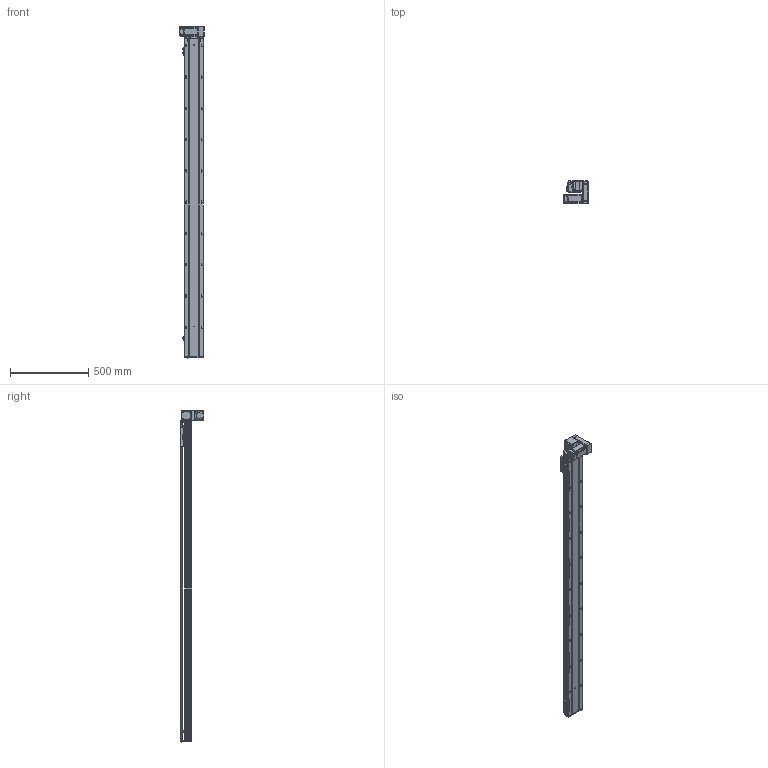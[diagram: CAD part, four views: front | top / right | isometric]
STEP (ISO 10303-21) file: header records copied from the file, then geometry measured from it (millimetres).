
FILE_DESCRIPTION (( 'STEP AP203' ), '1' );
FILE_NAME ('RY120-T-300-DR.SLDASM_1800.step', '2021-03-01T03:37:06', ( '盈信电脑' ), ( '东莞市道滘镇水果街19号' ), 'SwSTEP 2.0', 'SolidWorks 2012', '' );
FILE_SCHEMA (( 'CONFIG_CONTROL_DESIGN' ));
Length unit declared in the file: millimetre
Products named in the file (17): RY120-T-300-DR.SLDASM_1800; RY120-T主同步轮轴承压盖; RY120-T萇儂欶; RY120-T萇儂假蚾啣; RY120-T蹟翐M4; 滅袉蝶18-10; RY120-T翋肮祭謫裔啣; RY120-T翋肮祭盓傅釱; 15; RY120外置感应片(140共用）; RY120-T肮祭湍揤踡輸1; 覜茼ん672; RY120-T肮祭湍揤踡輸2; RY120-T-300-DR倰第奻裔啣_1800; RY120肮祭湍臏賑輸; RY120綴裔啣; RY120-T-300-DR倰第菁釱_1800
Assembly tree (22 placements, depth 2):
  RY120-T-300-DR.SLDASM_1800
    RY120-T-300-DR倰第菁釱_1800
    RY120-T-300-DR倰第奻裔啣_1800
    RY120肮祭湍臏賑輸
    RY120綴裔啣
    覜茼ん672  x3
    RY120外置感应片(140共用）
    RY120-T肮祭湍揤踡輸1
    RY120-T肮祭湍揤踡輸2
    RY120-T翋肮祭盓傅釱
    滅袉蝶18-10  x2
    RY120-T翋肮祭謫裔啣
    15
    RY120-T萇儂假蚾啣
    RY120-T蹟翐M4  x4
    RY120-T萇儂欶
    RY120-T主同步轮轴承压盖
Bounding box: 155.5 x 150 x 2121 mm (x, y, z)
Volume: 5368978.2 mm3; surface area: 2044668.9 mm2
Topology: 23 solids, 23 shells, 3050 faces, 8336 edges, 5314 vertices
Faces by surface type: plane 1442, cylinder 1208, cone 311, bspline 89
Entity records: 97783 total; most frequent: CARTESIAN_POINT 25372, ORIENTED_EDGE 14984, DIRECTION 14158, EDGE_CURVE 7492, VERTEX_POINT 4901, AXIS2_PLACEMENT_3D 4799, VECTOR 4560, LINE 4560
